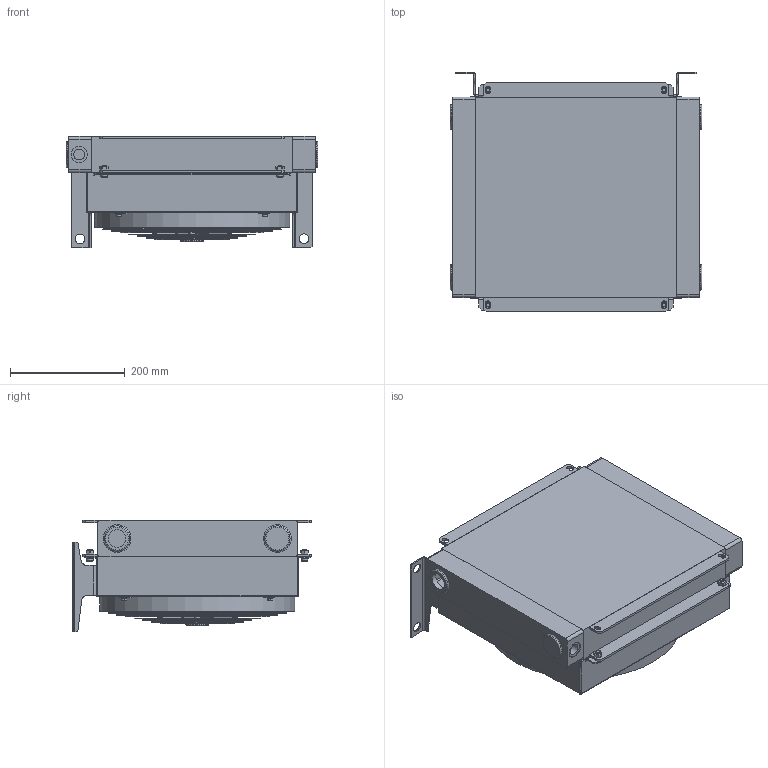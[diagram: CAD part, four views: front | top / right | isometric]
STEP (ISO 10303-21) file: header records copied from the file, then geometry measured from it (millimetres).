
FILE_DESCRIPTION(('STEP AP203'),'2;1');
FILE_NAME('SS300100A-P.stp','2015-12-16T15:12:55',(''),(''),'2012.1.115','THINKDESIGN','');
FILE_SCHEMA(('CONFIG_CONTROL_DESIGN'));
Bounding box: 438 x 417.5 x 193.5 mm (x, y, z)
Volume: 8921934.4 mm3; surface area: 1180670.4 mm2
Topology: 65 solids, 65 shells, 983 faces, 2376 edges, 1502 vertices
Faces by surface type: plane 499, bspline 255, cylinder 229
Full cylindrical faces by diameter (mm): 5 x16, 6 x8, 6.5 x8, 6.75 x4, 8 x8, 9 x12, 10 x1, 11 x4, 16.5 x4, 19 x1, 28 x1, 30.5 x2, 40 x1, 312 x1, 334 x1, 340 x1
Entity records: 51460 total; most frequent: CARTESIAN_POINT 28493, DIRECTION 4678, ORIENTED_EDGE 4648, EDGE_CURVE 2324, AXIS2_PLACEMENT_3D 1634, VERTEX_POINT 1502, VECTOR 1410, LINE 1410
